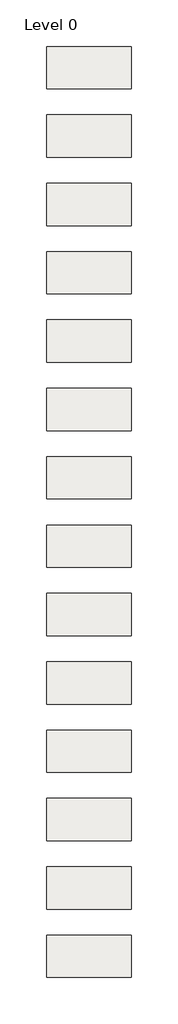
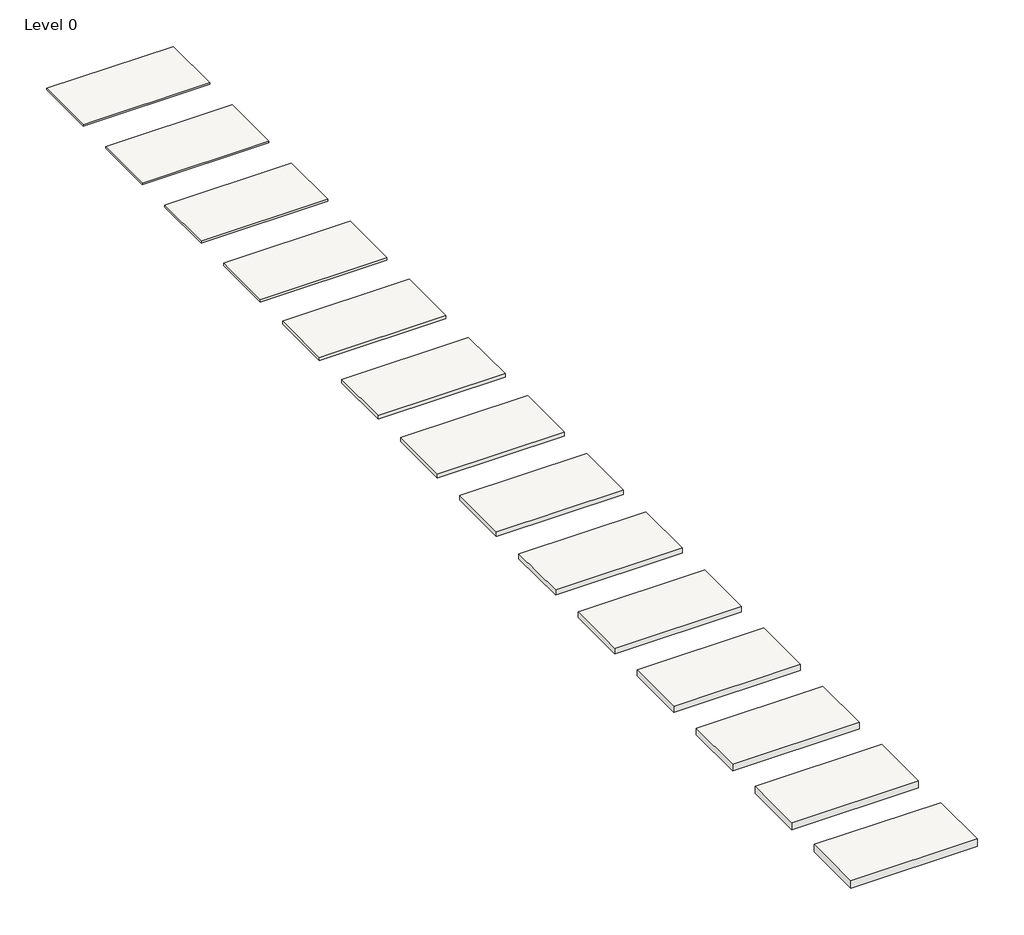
# One storey, incomplete: 14 roofs.
"""IFC4 building model written with IfcOpenShell, lengths in millimetres."""

from ifc_helpers import new_model, si_unit, origin, origin_with_axes, place, context, project, spatial, polyline, outline, extrude, element, save

model = new_model("IFC4")

# Units and contexts
model_context = context("Model", 3, world=origin())
ifc_project = project(units=[si_unit("LENGTHUNIT", "METRE", prefix="MILLI")], contexts=[model_context])

# Site, building, storey
site = spatial("IfcSite", under=ifc_project)
building = spatial("IfcBuilding", under=site)
storey = spatial("IfcBuildingStorey", under=building, Name="Level 0", Elevation=0.0)

# Roofs
placement = place(None, origin())
element("IfcRoof", 1, ObjectType="Kingspan Kooltherm® K7 Pitched Roof Board - 25mm", at=placement, inside=storey, context=model_context, shape_type="SweptSolid", body=[
    extrude(outline(polyline([(-6921.4805025, 6199.9677764), (-4521.4805025, 6199.9677764), (-4521.4805025, 4999.9677764), (-6921.4805025, 4999.9677764), (-6921.4805025, 6199.9677764)])), origin_with_axes(), (0.0, 0.0, 1.0), 25.0),
])
element("IfcRoof", 2, ObjectType="Kingspan Kooltherm® K7 Pitched Roof Board - 30mm", at=placement, inside=storey, context=model_context, shape_type="SweptSolid", body=[
    extrude(outline(polyline([(-6921.4805025, 4261.5061759), (-4521.4805025, 4261.5061759), (-4521.4805025, 3061.5061759), (-6921.4805025, 3061.5061759), (-6921.4805025, 4261.5061759)])), origin_with_axes(), (0.0, 0.0, 1.0), 30.0),
])
element("IfcRoof", 3, ObjectType="Kingspan Kooltherm® K7 Pitched Roof Board - 40mm", at=placement, inside=storey, context=model_context, shape_type="SweptSolid", body=[
    extrude(outline(polyline([(-6921.4805025, 2323.0445754), (-4521.4805025, 2323.0445754), (-4521.4805025, 1123.0445754), (-6921.4805025, 1123.0445754), (-6921.4805025, 2323.0445754)])), origin_with_axes(), (0.0, 0.0, 1.0), 40.0),
])
element("IfcRoof", 4, ObjectType="Kingspan Kooltherm® K7 Pitched Roof Board - 50mm", at=placement, inside=storey, context=model_context, shape_type="SweptSolid", body=[
    extrude(outline(polyline([(-6921.4805025, 384.5829749), (-4521.4805025, 384.5829749), (-4521.4805025, -815.4170251), (-6921.4805025, -815.4170251), (-6921.4805025, 384.5829749)])), origin_with_axes(), (0.0, 0.0, 1.0), 50.0),
])
element("IfcRoof", 5, ObjectType="Kingspan Kooltherm® K7 Pitched Roof Board - 60mm", at=placement, inside=storey, context=model_context, shape_type="SweptSolid", body=[
    extrude(outline(polyline([(-6921.4805025, -1553.8786256), (-4521.4805025, -1553.8786256), (-4521.4805025, -2753.8786256), (-6921.4805025, -2753.8786256), (-6921.4805025, -1553.8786256)])), origin_with_axes(), (0.0, 0.0, 1.0), 60.0),
])
element("IfcRoof", 6, ObjectType="Kingspan Kooltherm® K7 Pitched Roof Board - 70mm", at=placement, inside=storey, context=model_context, shape_type="SweptSolid", body=[
    extrude(outline(polyline([(-6921.4805025, -3492.3402261), (-4521.4805025, -3492.3402261), (-4521.4805025, -4692.3402261), (-6921.4805025, -4692.3402261), (-6921.4805025, -3492.3402261)])), origin_with_axes(), (0.0, 0.0, 1.0), 70.0),
])
element("IfcRoof", 7, ObjectType="Kingspan Kooltherm® K7 Pitched Roof Board - 80mm", at=placement, inside=storey, context=model_context, shape_type="SweptSolid", body=[
    extrude(outline(polyline([(-6921.4805025, -5430.8018266), (-4521.4805025, -5430.8018266), (-4521.4805025, -6630.8018266), (-6921.4805025, -6630.8018266), (-6921.4805025, -5430.8018266)])), origin_with_axes(), (0.0, 0.0, 1.0), 80.0),
])
element("IfcRoof", 8, ObjectType="Kingspan Kooltherm® K7 Pitched Roof Board - 90mm", at=placement, inside=storey, context=model_context, shape_type="SweptSolid", body=[
    extrude(outline(polyline([(-6921.4805025, -7369.2634271), (-4521.4805025, -7369.2634271), (-4521.4805025, -8569.2634271), (-6921.4805025, -8569.2634271), (-6921.4805025, -7369.2634271)])), origin_with_axes(), (0.0, 0.0, 1.0), 90.0),
])
element("IfcRoof", 9, ObjectType="Kingspan Kooltherm® K7 Pitched Roof Board - 100mm", at=placement, inside=storey, context=model_context, shape_type="SweptSolid", body=[
    extrude(outline(polyline([(-6921.4805025, -9307.7250275), (-4521.4805025, -9307.7250275), (-4521.4805025, -10507.7250275), (-6921.4805025, -10507.7250275), (-6921.4805025, -9307.7250275)])), origin_with_axes(), (0.0, 0.0, 1.0), 100.0),
])
element("IfcRoof", 10, ObjectType="Kingspan Kooltherm® K7 Pitched Roof Board - 110mm", at=placement, inside=storey, context=model_context, shape_type="SweptSolid", body=[
    extrude(outline(polyline([(-6921.4805025, -11246.186628), (-4521.4805025, -11246.186628), (-4521.4805025, -12446.186628), (-6921.4805025, -12446.186628), (-6921.4805025, -11246.186628)])), origin_with_axes(), (0.0, 0.0, 1.0), 110.0),
])
element("IfcRoof", 11, ObjectType="Kingspan Kooltherm® K7 Pitched Roof Board - 120mm", at=placement, inside=storey, context=model_context, shape_type="SweptSolid", body=[
    extrude(outline(polyline([(-6921.4805025, -13184.6482285), (-4521.4805025, -13184.6482285), (-4521.4805025, -14384.6482285), (-6921.4805025, -14384.6482285), (-6921.4805025, -13184.6482285)])), origin_with_axes(), (0.0, 0.0, 1.0), 120.0),
])
element("IfcRoof", 12, ObjectType="Kingspan Kooltherm® K7 Pitched Roof Board - 130mm", at=placement, inside=storey, context=model_context, shape_type="SweptSolid", body=[
    extrude(outline(polyline([(-6921.4805025, -15123.109829), (-4521.4805025, -15123.109829), (-4521.4805025, -16323.109829), (-6921.4805025, -16323.109829), (-6921.4805025, -15123.109829)])), origin_with_axes(), (0.0, 0.0, 1.0), 130.0),
])
element("IfcRoof", 13, ObjectType="Kingspan Kooltherm® K7 Pitched Roof Board - 140mm", at=placement, inside=storey, context=model_context, shape_type="SweptSolid", body=[
    extrude(outline(polyline([(-6921.4805025, -17061.5714295), (-4521.4805025, -17061.5714295), (-4521.4805025, -18261.5714295), (-6921.4805025, -18261.5714295), (-6921.4805025, -17061.5714295)])), origin_with_axes(), (0.0, 0.0, 1.0), 140.0),
])
element("IfcRoof", 14, ObjectType="Kingspan Kooltherm® K7 Pitched Roof Board - 150mm", at=placement, inside=storey, context=model_context, shape_type="SweptSolid", body=[
    extrude(outline(polyline([(-6921.4805025, -19000.03303), (-4521.4805025, -19000.03303), (-4521.4805025, -20200.03303), (-6921.4805025, -20200.03303), (-6921.4805025, -19000.03303)])), origin_with_axes(), (0.0, 0.0, 1.0), 150.0),
])

save(model, "model.ifc")
